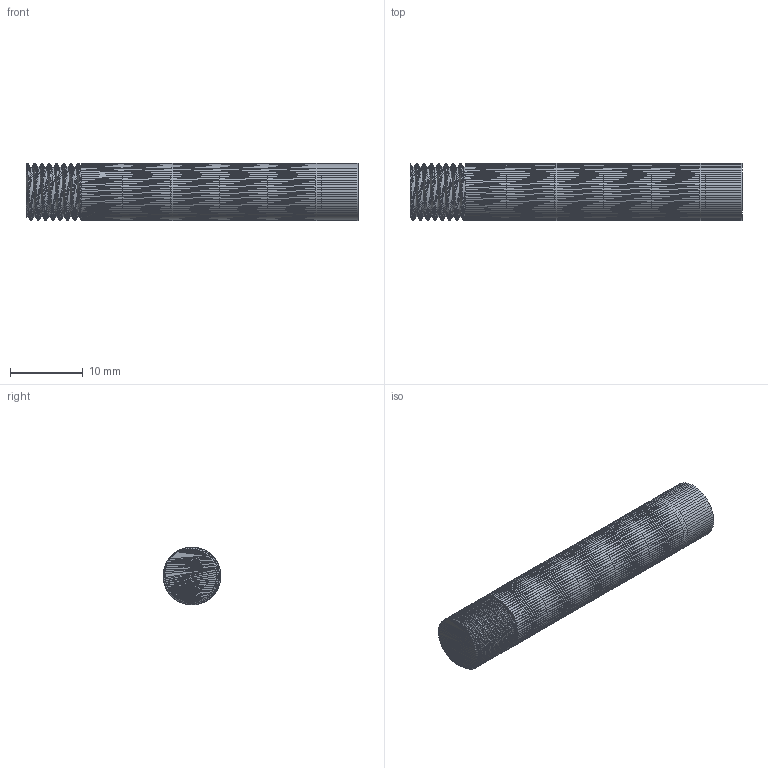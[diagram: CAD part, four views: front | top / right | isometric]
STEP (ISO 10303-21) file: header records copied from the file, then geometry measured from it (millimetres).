
FILE_DESCRIPTION(/* description */ (''),/* implementation_level */ '2;1');
FILE_NAME(/* name */ 'StepperScrewMount',/* time_stamp */ '2025-04-16T14:44:22-04:00',/* author */ (''),/* organization */ (''),/* preprocessor_version */ 'ST-DEVELOPER v19.2',/* originating_system */ 'Rhino 8.18',/* authorisation */ '');
FILE_SCHEMA (('CONFIG_CONTROL_DESIGN'));
Products named in the file (1): Document
Bounding box: 45.57 x 7.88 x 7.88 mm (x, y, z)
Volume: 1692.2 mm3; surface area: 1691.7 mm2
Topology: 1 solids, 1 shells, 7425 faces, 11248 edges, 3826 vertices
Faces by surface type: plane 7421, cylinder 4
Entity records: 127239 total; most frequent: CARTESIAN_POINT 33755, ORIENTED_EDGE 22496, EDGE_CURVE 11248, B_SPLINE_CURVE_WITH_KNOTS 11240, DIRECTION 7441, AXIS2_PLACEMENT_3D 7433, EDGE_LOOP 7426, ADVANCED_FACE 7425
